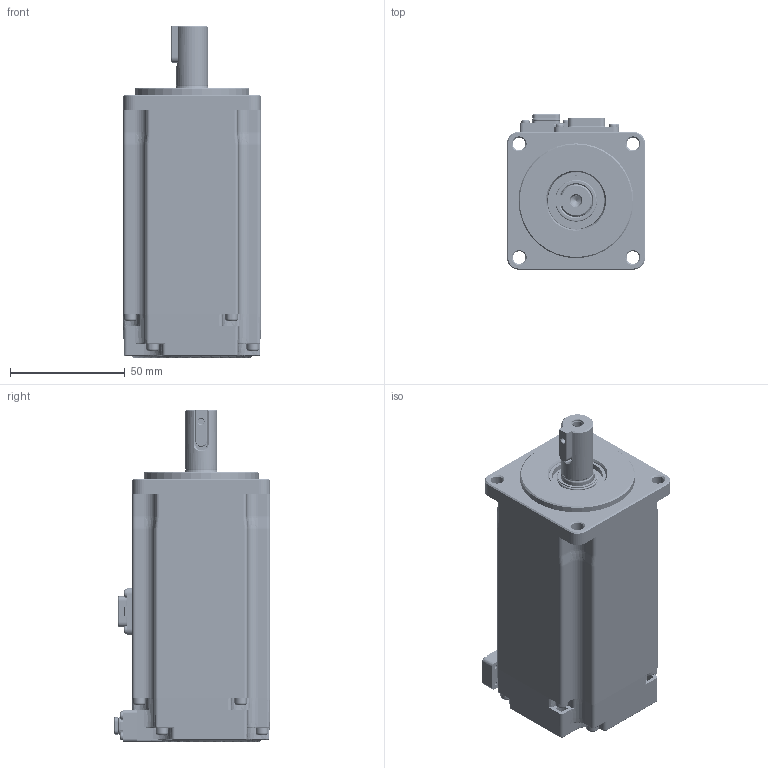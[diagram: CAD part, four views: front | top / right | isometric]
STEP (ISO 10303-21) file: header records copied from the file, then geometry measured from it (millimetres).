
FILE_DESCRIPTION((''),'2;1');
FILE_NAME('11101-01191_ASM','2024-09-05T16:03:03',('admin'),(''),'CREO PARAMETRIC BY PTC INC, 2019080','CREO PARAMETRIC BY PTC INC, 2019080','');
FILE_SCHEMA(('CONFIG_CONTROL_DESIGN'));
Products named in the file (103): 80040362_AF0; 66670034_AF0; 77840026_AF0; 77840027_AF0; 50001-00056_AF0; 40BDZZJ_AF0_ASM; 66670034_AF1; 77840026_AF1; 77840027_AF1; 50001-00056_AF1; 40BDZZJ_AF1_ASM; 66670034_AF2; 77840026_AF2; 77840027_AF2; 50001-00056_AF2; 40BDZZJ_AF2_ASM; 66670034_AF3; 77840026_AF3; 77840027_AF3; 50001-00056_AF3; 40BDZZJ_AF3_ASM; 66670034_AF4; 77840026_AF4; 77840027_AF4; 50001-00056_AF4; 40BDZZJ_AF4_ASM; 66670034_AF5; 77840026_AF5; 77840027_AF5; 50001-00056_AF5; 40BDZZJ_AF5_ASM; 66670034_AF6; 77840026_AF6; 77840027_AF6; 50001-00056_AF6; 40BDZZJ_AF6_ASM; 66670034_AF7; 77840026_AF7; 77840027_AF7; 50001-00056_AF7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
Assembly tree (105 placements, depth 4):
  11101-01191_ASM
    12112-00985_AF0_ASM
      80040362_AF0
      40BDZZJ_AF0_ASM
        66670034_AF0
        77840026_AF0
        77840027_AF0
        50001-00056_AF0
      40BDZZJ_AF1_ASM
        66670034_AF1
        77840026_AF1
        77840027_AF1
        50001-00056_AF1
      40BDZZJ_AF2_ASM
        66670034_AF2
        77840026_AF2
        77840027_AF2
        50001-00056_AF2
      40BDZZJ_AF3_ASM
        66670034_AF3
        77840026_AF3
        77840027_AF3
        50001-00056_AF3
      40BDZZJ_AF4_ASM
        66670034_AF4
        77840026_AF4
        77840027_AF4
        50001-00056_AF4
      40BDZZJ_AF5_ASM
        66670034_AF5
        77840026_AF5
        77840027_AF5
        50001-00056_AF5
      40BDZZJ_AF6_ASM
        66670034_AF6
        77840026_AF6
        77840027_AF6
        50001-00056_AF6
      40BDZZJ_AF7_ASM
        66670034_AF7
        77840026_AF7
        77840027_AF7
        50001-00056_AF7
      40BDZZJ_AF8_ASM
        66670034_AF8
        77840026_AF8
        77840027_AF8
        50001-00056_AF8
      40BDZZJ_AF9_ASM
        66670034_AF9
        77840026_AF9
        77840027_AF9
        50001-00056_AF9
      40BDZZJ_AF10_ASM
        66670034_AF10
        77840026_AF10
        77840027_AF10
        50001-00056_AF10
      40BDZZJ_AF11_ASM
        66670034_AF11
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Bounding box: 60 x 67.95 x 144.5 mm (x, y, z)
Volume: 93899.5 mm3; surface area: 76777.5 mm2
Topology: 24 solids, 47 shells, 3114 faces, 8351 edges, 5382 vertices
Faces by surface type: plane 1318, cylinder 1156, bspline 237, cone 183, torus 158, extrusion 49, sphere 13
Entity records: 154226 total; most frequent: CARTESIAN_POINT 79955, ORIENTED_EDGE 15804, DIRECTION 14086, EDGE_CURVE 7948, VERTEX_POINT 5136, AXIS2_PLACEMENT_3D 4790, VECTOR 4506, LINE 4457
